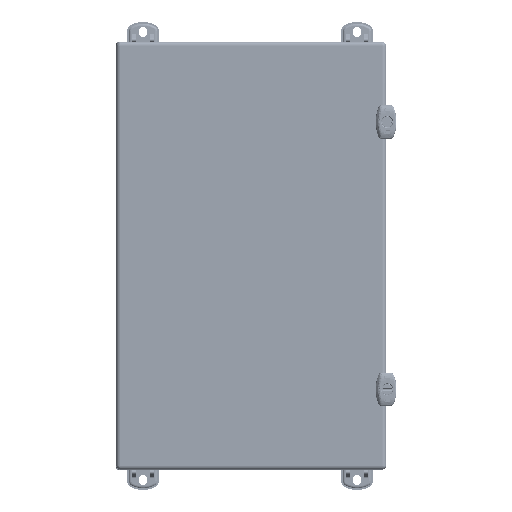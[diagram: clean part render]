
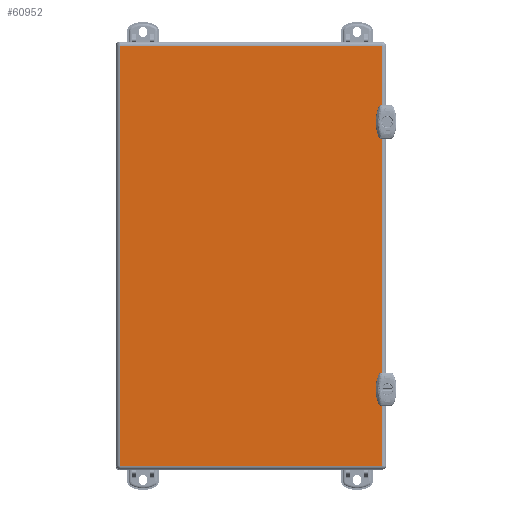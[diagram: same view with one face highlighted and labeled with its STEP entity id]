
A CAD part, top view. The second image highlights one B-rep face of the part: STEP entity #60952.
In plain terms, the highlighted planar face has unit normal (0, 0, 1).
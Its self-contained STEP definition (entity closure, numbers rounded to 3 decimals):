
#5294=CIRCLE('',#65943,0.03);
#5296=CIRCLE('',#65947,0.03);
#5306=CIRCLE('',#65960,0.03);
#5308=CIRCLE('',#65965,0.03);
#8209=FACE_OUTER_BOUND('',#11932,.T.);
#11932=EDGE_LOOP('',(#46654,#46655,#46656,#46657,#46658,#46659,#46660,#46661,
#46662,#46663,#46664,#46665,#46666,#46667,#46668,#46669));
#16413=LINE('',#104648,#21533);
#16421=LINE('',#104665,#21541);
#16424=LINE('',#104678,#21544);
#16431=LINE('',#104703,#21551);
#16433=LINE('',#104711,#21553);
#16435=LINE('',#104718,#21555);
#16438=LINE('',#104729,#21558);
#16442=LINE('',#104736,#21562);
#16447=LINE('',#104748,#21567);
#16539=LINE('',#105143,#21659);
#16541=LINE('',#105153,#21661);
#16542=LINE('',#105159,#21662);
#21533=VECTOR('',#75399,0.394);
#21541=VECTOR('',#75411,0.394);
#21544=VECTOR('',#75426,0.394);
#21551=VECTOR('',#75451,0.394);
#21553=VECTOR('',#75457,0.394);
#21555=VECTOR('',#75463,0.394);
#21558=VECTOR('',#75474,0.394);
#21562=VECTOR('',#75480,0.394);
#21567=VECTOR('',#75495,0.394);
#21659=VECTOR('',#75771,0.394);
#21661=VECTOR('',#75783,0.394);
#21662=VECTOR('',#75794,0.394);
#26642=VERTEX_POINT('',#104645);
#26643=VERTEX_POINT('',#104647);
#26649=VERTEX_POINT('',#104662);
#26650=VERTEX_POINT('',#104664);
#26652=VERTEX_POINT('',#104671);
#26654=VERTEX_POINT('',#104677);
#26663=VERTEX_POINT('',#104702);
#26666=VERTEX_POINT('',#104708);
#26667=VERTEX_POINT('',#104710);
#26670=VERTEX_POINT('',#104716);
#26673=VERTEX_POINT('',#104723);
#26674=VERTEX_POINT('',#104725);
#26676=VERTEX_POINT('',#104735);
#26678=VERTEX_POINT('',#104741);
#26771=VERTEX_POINT('',#105137);
#26776=VERTEX_POINT('',#105151);
#33662=EDGE_CURVE('',#26643,#26642,#16413,.T.);
#33670=EDGE_CURVE('',#26650,#26649,#16421,.T.);
#33674=EDGE_CURVE('',#26652,#26643,#5294,.T.);
#33677=EDGE_CURVE('',#26654,#26652,#16424,.T.);
#33680=EDGE_CURVE('',#26649,#26654,#5296,.T.);
#33690=EDGE_CURVE('',#26650,#26663,#16431,.T.);
#33694=EDGE_CURVE('',#26666,#26667,#16433,.T.);
#33698=EDGE_CURVE('',#26670,#26642,#16435,.T.);
#33701=EDGE_CURVE('',#26674,#26673,#5306,.T.);
#33703=EDGE_CURVE('',#26673,#26667,#16438,.T.);
#33707=EDGE_CURVE('',#26676,#26674,#16442,.T.);
#33710=EDGE_CURVE('',#26678,#26676,#5308,.T.);
#33714=EDGE_CURVE('',#26670,#26678,#16447,.T.);
#33856=EDGE_CURVE('',#26663,#26771,#16539,.T.);
#33861=EDGE_CURVE('',#26776,#26666,#16541,.T.);
#33865=EDGE_CURVE('',#26771,#26776,#16542,.T.);
#46654=ORIENTED_EDGE('',*,*,#33662,.T.);
#46655=ORIENTED_EDGE('',*,*,#33698,.F.);
#46656=ORIENTED_EDGE('',*,*,#33714,.T.);
#46657=ORIENTED_EDGE('',*,*,#33710,.T.);
#46658=ORIENTED_EDGE('',*,*,#33707,.T.);
#46659=ORIENTED_EDGE('',*,*,#33701,.T.);
#46660=ORIENTED_EDGE('',*,*,#33703,.T.);
#46661=ORIENTED_EDGE('',*,*,#33694,.F.);
#46662=ORIENTED_EDGE('',*,*,#33861,.F.);
#46663=ORIENTED_EDGE('',*,*,#33865,.F.);
#46664=ORIENTED_EDGE('',*,*,#33856,.F.);
#46665=ORIENTED_EDGE('',*,*,#33690,.F.);
#46666=ORIENTED_EDGE('',*,*,#33670,.T.);
#46667=ORIENTED_EDGE('',*,*,#33680,.T.);
#46668=ORIENTED_EDGE('',*,*,#33677,.T.);
#46669=ORIENTED_EDGE('',*,*,#33674,.T.);
#58778=PLANE('',#66077);
#60952=ADVANCED_FACE('',(#8209),#58778,.T.);
#65943=AXIS2_PLACEMENT_3D('',#104672,#75420,#75421);
#65947=AXIS2_PLACEMENT_3D('',#104682,#75432,#75433);
#65960=AXIS2_PLACEMENT_3D('',#104726,#75469,#75470);
#65965=AXIS2_PLACEMENT_3D('',#104742,#75486,#75487);
#66077=AXIS2_PLACEMENT_3D('',#105170,#75812,#75813);
#75399=DIRECTION('',(1.,0.,0.));
#75411=DIRECTION('',(-1.,0.,0.));
#75420=DIRECTION('center_axis',(0.,0.,-1.));
#75421=DIRECTION('ref_axis',(0.,1.,0.));
#75426=DIRECTION('',(0.,1.,0.));
#75432=DIRECTION('center_axis',(0.,0.,-1.));
#75433=DIRECTION('ref_axis',(-1.,0.,0.));
#75451=DIRECTION('',(0.,-1.,0.));
#75457=DIRECTION('',(0.,-1.,0.));
#75463=DIRECTION('',(0.,-1.,0.));
#75469=DIRECTION('center_axis',(0.,0.,-1.));
#75470=DIRECTION('ref_axis',(0.,1.,0.));
#75474=DIRECTION('',(1.,0.,0.));
#75480=DIRECTION('',(0.,1.,0.));
#75486=DIRECTION('center_axis',(0.,0.,-1.));
#75487=DIRECTION('ref_axis',(-1.,0.,0.));
#75495=DIRECTION('',(-1.,0.,0.));
#75771=DIRECTION('',(-1.,0.,0.));
#75783=DIRECTION('',(1.,0.,0.));
#75794=DIRECTION('',(0.,1.,0.));
#75812=DIRECTION('center_axis',(0.,0.,1.));
#75813=DIRECTION('ref_axis',(1.,0.,0.));
#104645=CARTESIAN_POINT('',(4.894,-4.438,0.053));
#104647=CARTESIAN_POINT('',(4.867,-4.438,0.053));
#104648=CARTESIAN_POINT('',(2.535,-4.438,0.053));
#104662=CARTESIAN_POINT('',(4.867,-5.563,0.053));
#104664=CARTESIAN_POINT('',(4.894,-5.563,0.053));
#104665=CARTESIAN_POINT('',(2.433,-5.563,0.053));
#104671=CARTESIAN_POINT('',(4.837,-4.468,0.053));
#104672=CARTESIAN_POINT('Origin',(4.867,-4.468,0.053));
#104677=CARTESIAN_POINT('',(4.837,-5.533,0.053));
#104678=CARTESIAN_POINT('',(4.837,-2.234,0.053));
#104682=CARTESIAN_POINT('Origin',(4.867,-5.533,0.053));
#104702=CARTESIAN_POINT('',(4.894,-7.854,0.053));
#104703=CARTESIAN_POINT('',(4.894,-3.927,0.053));
#104708=CARTESIAN_POINT('',(4.894,7.854,0.053));
#104710=CARTESIAN_POINT('',(4.894,5.563,0.053));
#104711=CARTESIAN_POINT('',(4.894,-3.927,0.053));
#104716=CARTESIAN_POINT('',(4.894,4.438,0.053));
#104718=CARTESIAN_POINT('',(4.894,-3.927,0.053));
#104723=CARTESIAN_POINT('',(4.867,5.563,0.053));
#104725=CARTESIAN_POINT('',(4.837,5.533,0.053));
#104726=CARTESIAN_POINT('Origin',(4.867,5.533,0.053));
#104729=CARTESIAN_POINT('',(2.535,5.563,0.053));
#104735=CARTESIAN_POINT('',(4.837,4.468,0.053));
#104736=CARTESIAN_POINT('',(4.837,2.766,0.053));
#104741=CARTESIAN_POINT('',(4.867,4.438,0.053));
#104742=CARTESIAN_POINT('Origin',(4.867,4.468,0.053));
#104748=CARTESIAN_POINT('',(2.433,4.438,0.053));
#105137=CARTESIAN_POINT('',(-4.894,-7.854,0.053));
#105143=CARTESIAN_POINT('',(-2.447,-7.854,0.053));
#105151=CARTESIAN_POINT('',(-4.894,7.854,0.053));
#105153=CARTESIAN_POINT('',(2.447,7.854,0.053));
#105159=CARTESIAN_POINT('',(-4.894,3.927,0.053));
#105170=CARTESIAN_POINT('Origin',(0.,0.,
0.053));
